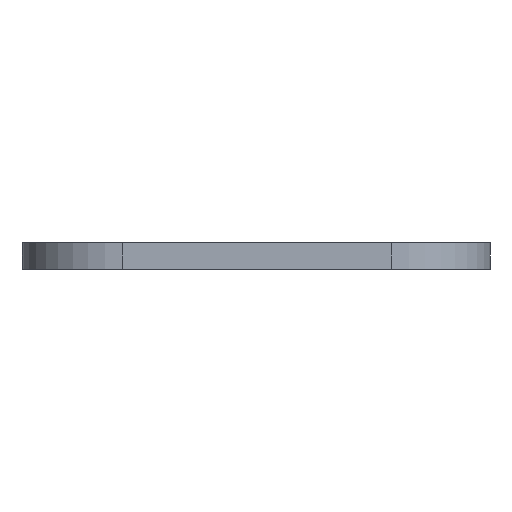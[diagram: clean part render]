
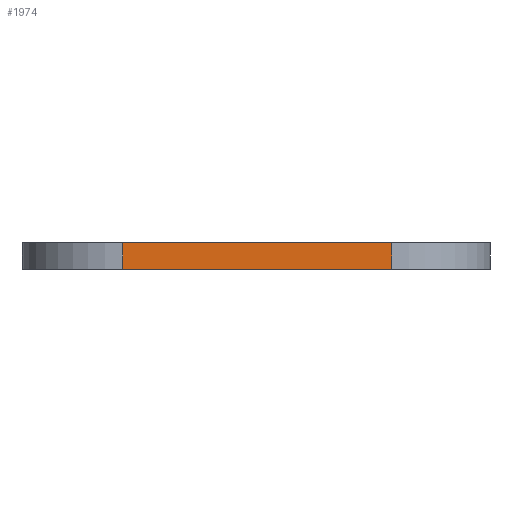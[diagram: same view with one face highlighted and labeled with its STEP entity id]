
A CAD part, left-side view. The second image highlights one B-rep face of the part: STEP entity #1974.
In plain terms, the highlighted planar face has unit normal (-1, 0, 0).
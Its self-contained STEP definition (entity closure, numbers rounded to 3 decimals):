
#250=FACE_OUTER_BOUND('',#348,.T.);
#348=EDGE_LOOP('',(#1599,#1600,#1601,#1602));
#554=LINE('',#3274,#754);
#555=LINE('',#3277,#755);
#556=LINE('',#3279,#756);
#557=LINE('',#3280,#757);
#754=VECTOR('',#2694,10.);
#755=VECTOR('',#2697,10.);
#756=VECTOR('',#2698,10.);
#757=VECTOR('',#2699,10.);
#949=VERTEX_POINT('',#3270);
#950=VERTEX_POINT('',#3272);
#951=VERTEX_POINT('',#3276);
#952=VERTEX_POINT('',#3278);
#1226=EDGE_CURVE('',#949,#950,#554,.T.);
#1227=EDGE_CURVE('',#949,#951,#555,.T.);
#1228=EDGE_CURVE('',#952,#950,#556,.T.);
#1229=EDGE_CURVE('',#951,#952,#557,.T.);
#1599=ORIENTED_EDGE('',*,*,#1227,.F.);
#1600=ORIENTED_EDGE('',*,*,#1226,.T.);
#1601=ORIENTED_EDGE('',*,*,#1228,.F.);
#1602=ORIENTED_EDGE('',*,*,#1229,.F.);
#1880=PLANE('',#2166);
#1974=ADVANCED_FACE('',(#250),#1880,.T.);
#2166=AXIS2_PLACEMENT_3D('',#3275,#2695,#2696);
#2694=DIRECTION('',(0.,0.,1.));
#2695=DIRECTION('center_axis',(-1.,0.,
0.));
#2696=DIRECTION('ref_axis',(0.,-1.,0.));
#2697=DIRECTION('',(0.,1.,0.));
#2698=DIRECTION('',(0.,-1.,0.));
#2699=DIRECTION('',(0.,0.,1.));
#3270=CARTESIAN_POINT('',(-155.926,-8.155,0.));
#3272=CARTESIAN_POINT('',(-155.926,-8.155,1.58));
#3274=CARTESIAN_POINT('',(-155.926,-8.155,0.));
#3275=CARTESIAN_POINT('Origin',(-155.926,7.969,0.));
#3276=CARTESIAN_POINT('',(-155.926,7.969,0.));
#3277=CARTESIAN_POINT('',(-155.926,-8.155,0.));
#3278=CARTESIAN_POINT('',(-155.926,7.969,1.58));
#3279=CARTESIAN_POINT('',(-155.926,-8.155,1.58));
#3280=CARTESIAN_POINT('',(-155.926,7.969,0.));
